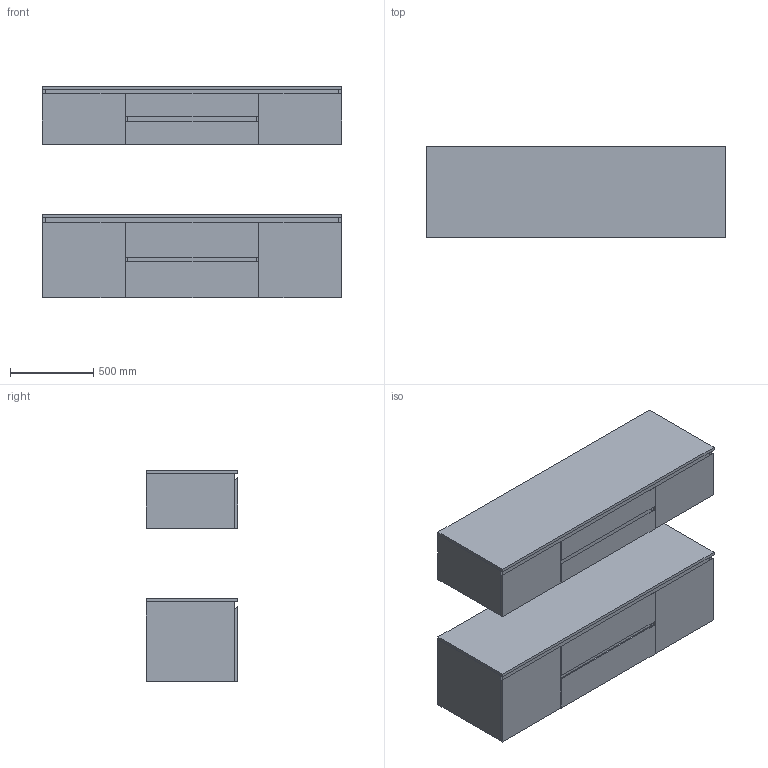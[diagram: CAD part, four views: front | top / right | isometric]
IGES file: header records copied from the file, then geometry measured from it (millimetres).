
Global section: file name: \\Archi-NAS\Comune\X GIOVANNI\MOBILI\EMOTION\EMOTION_4.igs; native system: Rhinoceros ( Feb 23 2021 ); preprocessor: Trout Lake IGES 012 Feb 23 2021; date: 230608.071718; units: millimetre
Bounding box: 1800 x 550 x 1273.24 mm (x, y, z)
Surface area: 25153180.4 mm2 (no closed solid volume)
Topology: 0 solids, 0 shells, 380 faces, 1536 edges, 1536 vertices
Faces by surface type: bspline 380
